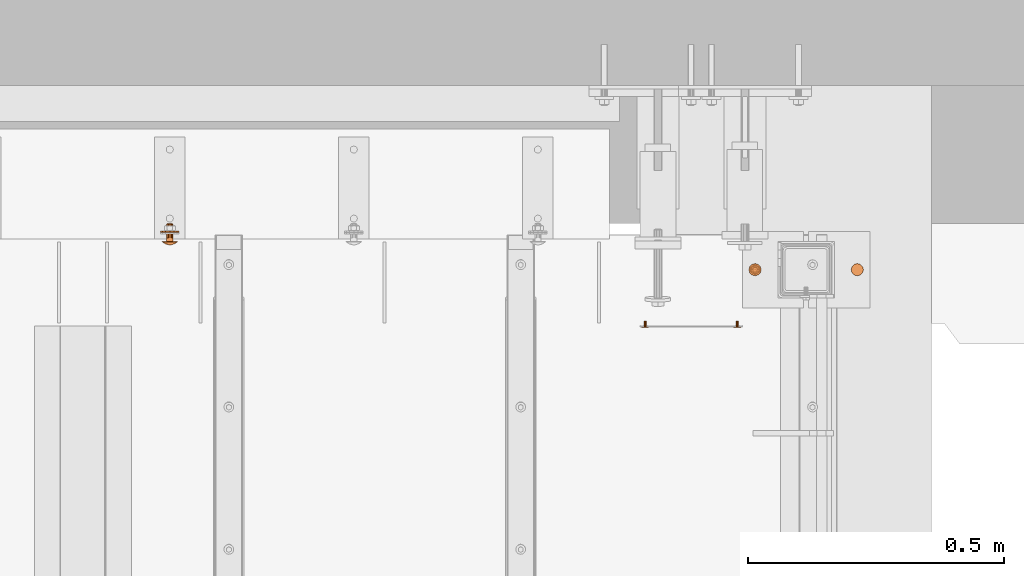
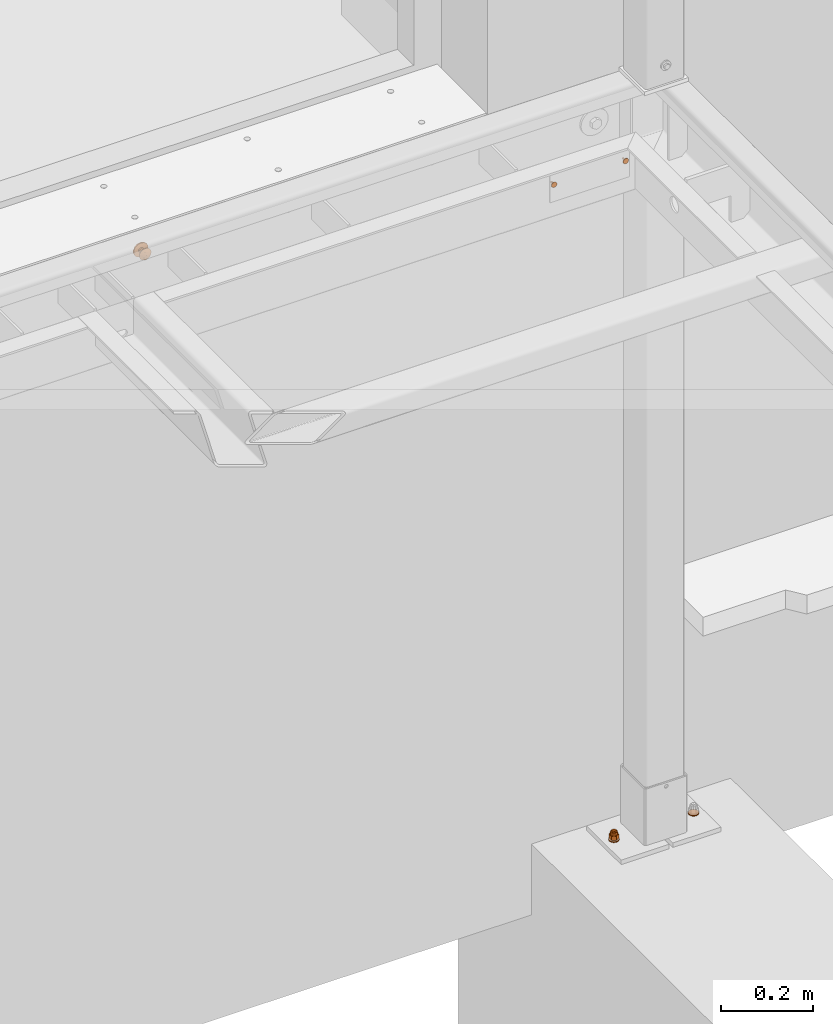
# One storey, part 111 of 116: 7 proxies.
"""IFC2X3 building model written with IfcOpenShell, lengths in millimetres."""

from ifc_helpers import new_model, entity, si_unit, converted_unit, origin_with_axes, place, context, project, spatial, faceted_brep, material, element, save


model = new_model("IFC2X3")

# Units and contexts
model_context = context("Model", 3, precision=1e-09, world=origin_with_axes())
ifc_project = project(units=[si_unit("LENGTHUNIT", "METRE", prefix="MILLI"), si_unit("AREAUNIT", "SQUARE_METRE"), si_unit("VOLUMEUNIT", "CUBIC_METRE"), converted_unit("PLANEANGLEUNIT", "DEGREE", entity("IfcPlaneAngleMeasure", 0.01745329), si_unit("PLANEANGLEUNIT", "RADIAN"), dimensions=[0, 0, 0, 0, 0, 0, 0])], contexts=[model_context])

# Site, building, storey
site_placement = place(None, origin_with_axes())
site = spatial("IfcSite", under=ifc_project, at=site_placement, Name="Site", CompositionType="ELEMENT")
building_placement = place(site_placement, origin_with_axes())
building = spatial("IfcBuilding", under=site, at=building_placement, Name="Struktur 1", CompositionType="ELEMENT")
storey_placement = place(building_placement, origin_with_axes())
storey = spatial("IfcBuildingStorey", under=building, at=storey_placement, Name="Default Storey", CompositionType="ELEMENT", Elevation=0.0)

# Proxies
ifc_material = material(Name="Kein")
proxy_1_placement = place(None, origin_with_axes())
element("IfcBuildingElementProxy", 1, at=proxy_1_placement, inside=storey, material=ifc_material, ObjectType="-", context=model_context, shape_type="Brep", body=[
    faceted_brep([(58256.656829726, 11956.358883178, -1997.0), (58256.656829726, 11956.358883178, -1994.5), (58255.049134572, 11962.358883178, -1994.5), (58255.049134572, 11962.358883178, -1997.0), (58261.419969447, 11959.108883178, -1997.0), (58263.799134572, 11956.729718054, -1997.0), (58267.049134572, 11955.858883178, -1997.0), (58270.299134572, 11956.729718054, -1997.0), (58272.678299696, 11959.108883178, -1997.0), (58273.549134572, 11962.358883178, -1997.0), (58272.678299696, 11965.608883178, -1997.0), (58270.299134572, 11967.988048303, -1997.0), (58267.049134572, 11968.858883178, -1997.0), (58263.799134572, 11967.988048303, -1997.0), (58261.419969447, 11965.608883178, -1997.0), (58260.549134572, 11962.358883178, -1997.0), (58260.549134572, 11962.358883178, -1994.5), (58261.419969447, 11959.108883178, -1994.5), (58261.049134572, 11951.966578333, -1994.5), (58267.049134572, 11950.358883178, -1994.5), (58273.049134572, 11951.966578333, -1994.5), (58277.441439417, 11956.358883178, -1994.5), (58279.049134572, 11962.358883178, -1994.5), (58277.441439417, 11968.358883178, -1994.5), (58273.049134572, 11972.751188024, -1994.5), (58267.049134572, 11974.358883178, -1994.5), (58261.049134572, 11972.751188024, -1994.5), (58256.656829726, 11968.358883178, -1994.5), (58261.049134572, 11951.966578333, -1997.0), (58261.419969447, 11965.608883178, -1994.5), (58256.656829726, 11968.358883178, -1997.0), (58263.799134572, 11956.729718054, -1994.5), (58267.049134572, 11950.358883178, -1997.0), (58263.799134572, 11967.988048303, -1994.5), (58261.049134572, 11972.751188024, -1997.0), (58267.049134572, 11955.858883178, -1994.5), (58267.049134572, 11968.858883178, -1994.5), (58273.049134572, 11951.966578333, -1997.0), (58270.299134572, 11956.729718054, -1994.5), (58267.049134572, 11974.358883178, -1997.0), (58270.299134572, 11967.988048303, -1994.5), (58277.441439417, 11956.358883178, -1997.0), (58272.678299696, 11959.108883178, -1994.5), (58273.049134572, 11972.751188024, -1997.0), (58272.678299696, 11965.608883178, -1994.5), (58279.049134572, 11962.358883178, -1997.0), (58273.549134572, 11962.358883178, -1994.5), (58277.441439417, 11968.358883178, -1997.0)], [[[0, 1, 2, 3]], [[4, 5, 6, 7, 8, 9, 10, 11, 12, 13, 14, 15]], [[15, 16, 17, 4]], [[1, 18, 19, 20, 21, 22, 23, 24, 25, 26, 27, 2]], [[1, 0, 28, 18]], [[16, 15, 14, 29]], [[3, 2, 27, 30]], [[4, 17, 31, 5]], [[18, 28, 32, 19]], [[29, 14, 13, 33]], [[30, 27, 26, 34]], [[5, 31, 35, 6]], [[33, 13, 12, 36]], [[19, 32, 37, 20]], [[6, 35, 38, 7]], [[34, 26, 25, 39]], [[36, 12, 11, 40]], [[20, 37, 41, 21]], [[7, 38, 42, 8]], [[39, 25, 24, 43]], [[40, 11, 10, 44]], [[21, 41, 45, 22]], [[8, 42, 46, 9]], [[43, 24, 23, 47]], [[44, 10, 9, 46]], [[22, 45, 47, 23]]]),
])
proxy_2_placement = place(None, origin_with_axes())
element("IfcBuildingElementProxy", 2, at=proxy_2_placement, inside=storey, material=ifc_material, ObjectType="-", context=model_context, shape_type="Brep", body=[
    faceted_brep([(58056.656829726, 11956.358883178, -1997.0), (58056.656829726, 11956.358883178, -1994.5), (58055.049134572, 11962.358883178, -1994.5), (58055.049134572, 11962.358883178, -1997.0), (58061.419969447, 11959.108883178, -1997.0), (58063.799134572, 11956.729718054, -1997.0), (58067.049134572, 11955.858883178, -1997.0), (58070.299134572, 11956.729718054, -1997.0), (58072.678299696, 11959.108883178, -1997.0), (58073.549134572, 11962.358883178, -1997.0), (58072.678299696, 11965.608883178, -1997.0), (58070.299134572, 11967.988048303, -1997.0), (58067.049134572, 11968.858883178, -1997.0), (58063.799134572, 11967.988048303, -1997.0), (58061.419969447, 11965.608883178, -1997.0), (58060.549134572, 11962.358883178, -1997.0), (58060.549134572, 11962.358883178, -1994.5), (58061.419969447, 11959.108883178, -1994.5), (58061.049134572, 11951.966578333, -1994.5), (58067.049134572, 11950.358883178, -1994.5), (58073.049134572, 11951.966578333, -1994.5), (58077.441439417, 11956.358883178, -1994.5), (58079.049134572, 11962.358883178, -1994.5), (58077.441439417, 11968.358883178, -1994.5), (58073.049134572, 11972.751188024, -1994.5), (58067.049134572, 11974.358883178, -1994.5), (58061.049134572, 11972.751188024, -1994.5), (58056.656829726, 11968.358883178, -1994.5), (58061.049134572, 11951.966578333, -1997.0), (58061.419969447, 11965.608883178, -1994.5), (58056.656829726, 11968.358883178, -1997.0), (58063.799134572, 11956.729718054, -1994.5), (58067.049134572, 11950.358883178, -1997.0), (58063.799134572, 11967.988048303, -1994.5), (58061.049134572, 11972.751188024, -1997.0), (58067.049134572, 11955.858883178, -1994.5), (58067.049134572, 11968.858883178, -1994.5), (58073.049134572, 11951.966578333, -1997.0), (58070.299134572, 11956.729718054, -1994.5), (58067.049134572, 11974.358883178, -1997.0), (58070.299134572, 11967.988048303, -1994.5), (58077.441439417, 11956.358883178, -1997.0), (58072.678299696, 11959.108883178, -1994.5), (58073.049134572, 11972.751188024, -1997.0), (58072.678299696, 11965.608883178, -1994.5), (58079.049134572, 11962.358883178, -1997.0), (58073.549134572, 11962.358883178, -1994.5), (58077.441439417, 11968.358883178, -1997.0)], [[[0, 1, 2, 3]], [[4, 5, 6, 7, 8, 9, 10, 11, 12, 13, 14, 15]], [[15, 16, 17, 4]], [[1, 18, 19, 20, 21, 22, 23, 24, 25, 26, 27, 2]], [[1, 0, 28, 18]], [[16, 15, 14, 29]], [[3, 2, 27, 30]], [[4, 17, 31, 5]], [[18, 28, 32, 19]], [[29, 14, 13, 33]], [[30, 27, 26, 34]], [[5, 31, 35, 6]], [[33, 13, 12, 36]], [[19, 32, 37, 20]], [[6, 35, 38, 7]], [[34, 26, 25, 39]], [[36, 12, 11, 40]], [[20, 37, 41, 21]], [[7, 38, 42, 8]], [[39, 25, 24, 43]], [[40, 11, 10, 44]], [[21, 41, 45, 22]], [[8, 42, 46, 9]], [[43, 24, 23, 47]], [[44, 10, 9, 46]], [[22, 45, 47, 23]]]),
])
proxy_3_placement = place(None, origin_with_axes())
element("IfcBuildingElementProxy", 3, at=proxy_3_placement, inside=storey, material=ifc_material, ObjectType="-", context=model_context, shape_type="Brep", body=[
    faceted_brep([(58073.049134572, 11962.358883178, -1982.0), (58073.049134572, 11962.358883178, -1992.0), (58072.245286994, 11959.358883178, -1992.0), (58072.245286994, 11959.358883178, -1982.0), (58070.049134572, 11957.162730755, -1992.0), (58070.049134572, 11957.162730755, -1982.0), (58072.245286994, 11965.358883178, -1982.0), (58072.245286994, 11965.358883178, -1992.0), (58076.529003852, 11967.832088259, -1992.0), (58076.529003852, 11956.885678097, -1992.0), (58067.049134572, 11951.412473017, -1992.0), (58057.569265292, 11956.885678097, -1992.0), (58057.569265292, 11967.832088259, -1992.0), (58067.049134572, 11973.30529334, -1992.0), (58070.049134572, 11967.555035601, -1992.0), (58067.049134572, 11968.358883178, -1992.0), (58064.049134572, 11967.555035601, -1992.0), (58061.852982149, 11965.358883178, -1992.0), (58061.049134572, 11962.358883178, -1992.0), (58061.852982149, 11959.358883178, -1992.0), (58064.049134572, 11957.162730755, -1992.0), (58067.049134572, 11956.358883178, -1992.0), (58076.529003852, 11967.832088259, -1982.0), (58067.049134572, 11973.30529334, -1982.0), (58057.569265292, 11967.832088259, -1982.0), (58057.569265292, 11956.885678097, -1982.0), (58067.049134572, 11951.412473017, -1982.0), (58076.529003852, 11956.885678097, -1982.0), (58070.049134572, 11967.555035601, -1982.0), (58067.049134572, 11956.358883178, -1982.0), (58067.049134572, 11968.358883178, -1982.0), (58064.049134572, 11957.162730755, -1982.0), (58064.049134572, 11967.555035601, -1982.0), (58061.852982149, 11959.358883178, -1982.0), (58061.852982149, 11965.358883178, -1982.0), (58061.049134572, 11962.358883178, -1982.0)], [[[0, 1, 2, 3]], [[3, 2, 4, 5]], [[1, 0, 6, 7]], [[8, 9, 10, 11, 12, 13], [7, 14, 15, 16, 17, 18, 19, 20, 21, 4, 2, 1]], [[22, 23, 24, 25, 26, 27]], [[7, 6, 28, 14]], [[22, 27, 9, 8]], [[5, 4, 21, 29]], [[10, 9, 27, 26]], [[14, 28, 30, 15]], [[23, 22, 8, 13]], [[29, 21, 20, 31]], [[11, 10, 26, 25]], [[15, 30, 32, 16]], [[24, 23, 13, 12]], [[31, 20, 19, 33]], [[25, 24, 12, 11]], [[16, 32, 34, 17]], [[33, 19, 18, 35]], [[17, 34, 35, 18]]]),
    faceted_brep([(58067.049134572, 11971.358883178, -1979.0), (58067.049134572, 11971.358883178, -1982.0), (58062.549134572, 11970.153111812, -1982.0), (58062.549134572, 11970.153111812, -1979.0), (58071.549134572, 11970.153111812, -1979.0), (58071.549134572, 11970.153111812, -1982.0), (58071.549134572, 11954.564654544, -1979.0), (58074.843363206, 11957.858883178, -1979.0), (58076.049134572, 11962.358883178, -1979.0), (58074.843363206, 11966.858883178, -1979.0), (58059.254905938, 11966.858883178, -1979.0), (58058.049134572, 11962.358883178, -1979.0), (58059.254905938, 11957.858883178, -1979.0), (58062.549134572, 11954.564654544, -1979.0), (58067.049134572, 11953.358883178, -1979.0), (58062.549134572, 11954.564654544, -1982.0), (58059.254905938, 11957.858883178, -1982.0), (58058.049134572, 11962.358883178, -1982.0), (58059.254905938, 11966.858883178, -1982.0), (58074.843363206, 11966.858883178, -1982.0), (58076.049134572, 11962.358883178, -1982.0), (58074.843363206, 11957.858883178, -1982.0), (58071.549134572, 11954.564654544, -1982.0), (58067.049134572, 11953.358883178, -1982.0)], [[[0, 1, 2, 3]], [[1, 0, 4, 5]], [[6, 7, 8, 9, 4, 0, 3, 10, 11, 12, 13, 14]], [[15, 16, 17, 18, 2, 1, 5, 19, 20, 21, 22, 23]], [[3, 2, 18, 10]], [[5, 4, 9, 19]], [[10, 18, 17, 11]], [[19, 9, 8, 20]], [[22, 6, 14, 23]], [[7, 21, 20, 8]], [[6, 22, 21, 7]], [[11, 17, 16, 12]], [[23, 14, 13, 15]], [[12, 16, 15, 13]]]),
    faceted_brep([(58073.799134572, 11966.255997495, -1974.5), (58074.843363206, 11966.858883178, -1979.0), (58071.549134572, 11970.153111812, -1979.0), (58070.946248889, 11969.108883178, -1974.5), (58062.549134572, 11954.564654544, -1979.0), (58059.254905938, 11957.858883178, -1979.0), (58058.049134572, 11962.358883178, -1979.0), (58059.254905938, 11966.858883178, -1979.0), (58062.549134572, 11970.153111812, -1979.0), (58067.049134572, 11971.358883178, -1979.0), (58076.049134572, 11962.358883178, -1979.0), (58074.843363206, 11957.858883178, -1979.0), (58071.549134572, 11954.564654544, -1979.0), (58067.049134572, 11953.358883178, -1979.0), (58067.049134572, 11970.153111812, -1974.5), (58071.549134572, 11962.358883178, -1971.205771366), (58074.843363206, 11962.358883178, -1974.5), (58070.946248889, 11964.608883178, -1971.205771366), (58063.152020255, 11969.108883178, -1974.5), (58069.299134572, 11966.255997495, -1971.205771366), (58070.946248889, 11960.108883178, -1971.205771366), (58073.799134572, 11958.461768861, -1974.5), (58067.049134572, 11966.858883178, -1971.205771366), (58067.049134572, 11962.358883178, -1970.0), (58069.299134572, 11958.461768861, -1971.205771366), (58070.946248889, 11955.608883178, -1974.5), (58067.049134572, 11954.564654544, -1974.5), (58060.299134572, 11966.255997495, -1974.5), (58064.799134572, 11966.255997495, -1971.205771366), (58067.049134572, 11957.858883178, -1971.205771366), (58063.152020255, 11955.608883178, -1974.5), (58064.799134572, 11958.461768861, -1971.205771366), (58059.254905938, 11962.358883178, -1974.5), (58063.152020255, 11964.608883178, -1971.205771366), (58060.299134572, 11958.461768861, -1974.5), (58063.152020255, 11960.108883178, -1971.205771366), (58062.549134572, 11962.358883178, -1971.205771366)], [[[0, 1, 2, 3]], [[4, 5, 6, 7, 8, 9, 2, 1, 10, 11, 12, 13]], [[3, 2, 9, 14]], [[15, 16, 0, 17]], [[1, 0, 16, 10]], [[14, 9, 8, 18]], [[17, 0, 3, 19]], [[16, 15, 20, 21]], [[19, 3, 14, 22]], [[17, 23, 15]], [[24, 25, 21, 20]], [[15, 23, 20]], [[12, 25, 26, 13]], [[11, 21, 25, 12]], [[10, 16, 21, 11]], [[18, 8, 7, 27]], [[22, 14, 18, 28]], [[19, 23, 17]], [[29, 26, 25, 24]], [[20, 23, 24]], [[22, 23, 19]], [[13, 26, 30, 4]], [[26, 29, 31, 30]], [[24, 23, 29]], [[27, 7, 6, 32]], [[28, 18, 27, 33]], [[28, 23, 22]], [[29, 23, 31]], [[33, 23, 28]], [[4, 30, 34, 5]], [[30, 31, 35, 34]], [[31, 23, 35]], [[32, 6, 5, 34]], [[33, 27, 32, 36]], [[36, 23, 33]], [[35, 23, 36]], [[34, 35, 36, 32]]]),
])
proxy_4_placement = place(None, origin_with_axes())
element("IfcBuildingElementProxy", 4, at=proxy_4_placement, inside=storey, material=ifc_material, ObjectType="-", context=model_context, shape_type="Brep", body=[
    faceted_brep([(57852.047720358, 11849.358883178, -122.0), (57852.047720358, 11850.358883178, -122.0), (57855.547720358, 11850.358883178, -121.062177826), (57855.547720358, 11849.358883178, -121.062177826), (57848.547720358, 11849.358883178, -121.062177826), (57848.547720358, 11850.358883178, -121.062177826), (57848.547720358, 11849.358883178, -108.937822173), (57845.985542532, 11849.358883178, -111.5), (57845.047720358, 11849.358883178, -115.0), (57845.985542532, 11849.358883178, -118.5), (57858.109898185, 11849.358883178, -118.5), (57859.047720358, 11849.358883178, -115.0), (57858.109898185, 11849.358883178, -111.5), (57855.547720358, 11849.358883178, -108.937822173), (57852.047720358, 11849.358883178, -108.0), (57855.547720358, 11850.358883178, -108.937822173), (57858.109898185, 11850.358883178, -111.5), (57859.047720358, 11850.358883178, -115.0), (57858.109898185, 11850.358883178, -118.5), (57845.985542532, 11850.358883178, -118.5), (57845.047720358, 11850.358883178, -115.0), (57845.985542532, 11850.358883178, -111.5), (57848.547720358, 11850.358883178, -108.937822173), (57852.047720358, 11850.358883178, -108.0)], [[[0, 1, 2, 3]], [[1, 0, 4, 5]], [[6, 7, 8, 9, 4, 0, 3, 10, 11, 12, 13, 14]], [[15, 16, 17, 18, 2, 1, 5, 19, 20, 21, 22, 23]], [[3, 2, 18, 10]], [[5, 4, 9, 19]], [[17, 11, 10, 18]], [[16, 12, 11, 17]], [[19, 9, 8, 20]], [[13, 15, 23, 14]], [[12, 16, 15, 13]], [[14, 23, 22, 6]], [[20, 8, 7, 21]], [[6, 22, 21, 7]]]),
    faceted_brep([(57852.047720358, 11850.358883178, -117.5), (57852.047720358, 11862.358883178, -117.5), (57853.297720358, 11862.358883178, -117.165063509), (57853.297720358, 11850.358883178, -117.165063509), (57850.797720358, 11850.358883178, -117.165063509), (57850.797720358, 11862.358883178, -117.165063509), (57850.797720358, 11850.358883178, -112.83493649), (57849.882656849, 11850.358883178, -113.75), (57849.547720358, 11850.358883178, -115.0), (57849.882656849, 11850.358883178, -116.25), (57854.212783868, 11850.358883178, -116.25), (57854.547720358, 11850.358883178, -115.0), (57854.212783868, 11850.358883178, -113.75), (57853.297720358, 11850.358883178, -112.83493649), (57852.047720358, 11850.358883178, -112.5), (57853.297720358, 11862.358883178, -112.83493649), (57854.212783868, 11862.358883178, -113.75), (57854.547720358, 11862.358883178, -115.0), (57854.212783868, 11862.358883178, -116.25), (57849.882656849, 11862.358883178, -116.25), (57849.547720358, 11862.358883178, -115.0), (57849.882656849, 11862.358883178, -113.75), (57850.797720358, 11862.358883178, -112.83493649), (57852.047720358, 11862.358883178, -112.5)], [[[0, 1, 2, 3]], [[1, 0, 4, 5]], [[6, 7, 8, 9, 4, 0, 3, 10, 11, 12, 13, 14]], [[15, 16, 17, 18, 2, 1, 5, 19, 20, 21, 22, 23]], [[3, 2, 18, 10]], [[5, 4, 9, 19]], [[17, 11, 10, 18]], [[16, 12, 11, 17]], [[19, 9, 8, 20]], [[13, 15, 23, 14]], [[12, 16, 15, 13]], [[14, 23, 22, 6]], [[20, 8, 7, 21]], [[6, 22, 21, 7]]]),
])
proxy_5_placement = place(None, origin_with_axes())
element("IfcBuildingElementProxy", 5, at=proxy_5_placement, inside=storey, material=ifc_material, ObjectType="-", context=model_context, shape_type="Brep", body=[
    faceted_brep([(58032.047720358, 11849.358883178, -122.0), (58032.047720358, 11850.358883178, -122.0), (58035.547720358, 11850.358883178, -121.062177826), (58035.547720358, 11849.358883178, -121.062177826), (58028.547720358, 11849.358883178, -121.062177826), (58028.547720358, 11850.358883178, -121.062177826), (58028.547720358, 11849.358883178, -108.937822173), (58025.985542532, 11849.358883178, -111.5), (58025.047720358, 11849.358883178, -115.0), (58025.985542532, 11849.358883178, -118.5), (58038.109898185, 11849.358883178, -118.5), (58039.047720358, 11849.358883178, -115.0), (58038.109898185, 11849.358883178, -111.5), (58035.547720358, 11849.358883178, -108.937822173), (58032.047720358, 11849.358883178, -108.0), (58035.547720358, 11850.358883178, -108.937822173), (58038.109898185, 11850.358883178, -111.5), (58039.047720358, 11850.358883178, -115.0), (58038.109898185, 11850.358883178, -118.5), (58025.985542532, 11850.358883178, -118.5), (58025.047720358, 11850.358883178, -115.0), (58025.985542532, 11850.358883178, -111.5), (58028.547720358, 11850.358883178, -108.937822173), (58032.047720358, 11850.358883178, -108.0)], [[[0, 1, 2, 3]], [[1, 0, 4, 5]], [[6, 7, 8, 9, 4, 0, 3, 10, 11, 12, 13, 14]], [[15, 16, 17, 18, 2, 1, 5, 19, 20, 21, 22, 23]], [[3, 2, 18, 10]], [[5, 4, 9, 19]], [[17, 11, 10, 18]], [[16, 12, 11, 17]], [[19, 9, 8, 20]], [[13, 15, 23, 14]], [[12, 16, 15, 13]], [[14, 23, 22, 6]], [[20, 8, 7, 21]], [[6, 22, 21, 7]]]),
    faceted_brep([(58032.047720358, 11850.358883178, -117.5), (58032.047720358, 11862.358883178, -117.5), (58033.297720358, 11862.358883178, -117.165063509), (58033.297720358, 11850.358883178, -117.165063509), (58030.797720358, 11850.358883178, -117.165063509), (58030.797720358, 11862.358883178, -117.165063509), (58030.797720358, 11850.358883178, -112.83493649), (58029.882656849, 11850.358883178, -113.75), (58029.547720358, 11850.358883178, -115.0), (58029.882656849, 11850.358883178, -116.25), (58034.212783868, 11850.358883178, -116.25), (58034.547720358, 11850.358883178, -115.0), (58034.212783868, 11850.358883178, -113.75), (58033.297720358, 11850.358883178, -112.83493649), (58032.047720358, 11850.358883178, -112.5), (58033.297720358, 11862.358883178, -112.83493649), (58034.212783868, 11862.358883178, -113.75), (58034.547720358, 11862.358883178, -115.0), (58034.212783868, 11862.358883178, -116.25), (58029.882656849, 11862.358883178, -116.25), (58029.547720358, 11862.358883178, -115.0), (58029.882656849, 11862.358883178, -113.75), (58030.797720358, 11862.358883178, -112.83493649), (58032.047720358, 11862.358883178, -112.5)], [[[0, 1, 2, 3]], [[1, 0, 4, 5]], [[6, 7, 8, 9, 4, 0, 3, 10, 11, 12, 13, 14]], [[15, 16, 17, 18, 2, 1, 5, 19, 20, 21, 22, 23]], [[3, 2, 18, 10]], [[5, 4, 9, 19]], [[17, 11, 10, 18]], [[16, 12, 11, 17]], [[19, 9, 8, 20]], [[13, 15, 23, 14]], [[12, 16, 15, 13]], [[14, 23, 22, 6]], [[20, 8, 7, 21]], [[6, 22, 21, 7]]]),
])
proxy_6_placement = place(None, origin_with_axes())
element("IfcBuildingElementProxy", 6, at=proxy_6_placement, inside=storey, material=ifc_material, ObjectType="-", context=model_context, shape_type="Brep", body=[
    faceted_brep([(56926.380761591, 12052.358883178, -72.5), (56927.246786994, 12051.358883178, -72.0), (56928.050634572, 12051.358883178, -75.0), (56927.050634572, 12052.358883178, -75.0), (56924.550634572, 12052.358883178, -70.669872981), (56925.050634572, 12051.358883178, -69.803847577), (56917.720507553, 12052.358883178, -72.5), (56919.550634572, 12052.358883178, -70.669872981), (56922.050634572, 12052.358883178, -70.0), (56926.380761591, 12052.358883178, -77.5), (56924.550634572, 12052.358883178, -79.330127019), (56922.050634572, 12052.358883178, -80.0), (56919.550634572, 12052.358883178, -79.330127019), (56917.720507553, 12052.358883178, -77.5), (56917.050634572, 12052.358883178, -75.0), (56935.620248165, 12017.011383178, -67.878117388), (56930.756226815, 12017.011383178, -62.387772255), (56927.83032902, 12012.523540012, -69.220305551), (56929.602169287, 12012.523540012, -71.872051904), (56922.050634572, 12051.358883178, -69.0), (56925.050634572, 12024.308883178, -69.803847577), (56927.246786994, 12024.308883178, -72.0), (56937.375634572, 12017.011383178, -75.0), (56935.620248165, 12017.358883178, -67.878117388), (56930.756226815, 12017.358883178, -62.387772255), (56927.246786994, 12051.358883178, -78.0), (56925.050634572, 12051.358883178, -80.196152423), (56928.050634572, 12024.308883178, -75.0), (56930.224356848, 12012.523540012, -75.0), (56925.178582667, 12012.523540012, -67.448465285), (56922.050634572, 12010.408883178, -75.0), (56923.897859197, 12017.011383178, -59.786736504), (56919.050634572, 12051.358883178, -69.803847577), (56922.050634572, 12024.308883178, -69.0), (56923.897859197, 12017.358883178, -59.786736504), (56916.854482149, 12051.358883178, -72.0), (56916.050634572, 12051.358883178, -75.0), (56937.375634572, 12017.358883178, -75.0), (56916.854482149, 12051.358883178, -78.0), (56919.050634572, 12051.358883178, -80.196152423), (56922.050634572, 12051.358883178, -81.0), (56928.050634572, 12024.308883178, -69.0), (56929.602169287, 12012.523540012, -78.127948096), (56922.050634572, 12012.523540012, -66.826277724), (56916.616314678, 12017.011383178, -60.670876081), (56919.050634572, 12024.308883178, -69.803847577), (56910.579707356, 12017.358883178, -64.837645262), (56916.616314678, 12017.358883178, -60.670876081), (56935.620248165, 12017.358883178, -82.121882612), (56930.756226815, 12017.358883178, -87.612227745), (56923.897859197, 12017.358883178, -90.213263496), (56916.616314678, 12017.358883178, -89.329123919), (56910.579707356, 12017.358883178, -85.162354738), (56907.17095122, 12017.358883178, -78.667512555), (56907.17095122, 12017.358883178, -71.332487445), (56916.050634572, 12017.358883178, -69.0), (56916.050634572, 12017.358883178, -81.0), (56928.050634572, 12017.358883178, -81.0), (56928.050634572, 12017.358883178, -69.0), (56935.620248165, 12017.011383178, -82.121882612), (56927.246786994, 12024.308883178, -78.0), (56925.050634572, 12024.308883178, -80.196152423), (56927.83032902, 12012.523540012, -80.779694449), (56918.922686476, 12012.523540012, -67.448465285), (56916.854482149, 12024.308883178, -72.0), (56916.050634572, 12024.308883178, -69.0), (56916.050634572, 12024.308883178, -75.0), (56916.854482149, 12024.308883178, -78.0), (56919.050634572, 12024.308883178, -80.196152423), (56922.050634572, 12024.308883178, -81.0), (56928.050634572, 12024.308883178, -81.0), (56930.756226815, 12017.011383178, -87.612227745), (56916.270940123, 12012.523540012, -69.220305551), (56910.579707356, 12017.011383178, -64.837645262), (56916.050634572, 12024.308883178, -81.0), (56925.178582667, 12012.523540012, -82.551534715), (56914.499099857, 12012.523540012, -71.872051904), (56923.897859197, 12017.011383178, -90.213263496), (56922.050634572, 12012.523540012, -83.173722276), (56907.17095122, 12017.011383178, -71.332487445), (56918.922686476, 12012.523540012, -82.551534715), (56913.876912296, 12012.523540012, -75.0), (56916.616314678, 12017.011383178, -89.329123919), (56916.270940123, 12012.523540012, -80.779694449), (56907.17095122, 12017.011383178, -78.667512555), (56914.499099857, 12012.523540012, -78.127948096), (56910.579707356, 12017.011383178, -85.162354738)], [[[0, 1, 2, 3]], [[1, 0, 4, 5]], [[6, 7, 8, 4, 0, 3, 9, 10, 11, 12, 13, 14]], [[15, 16, 17]], [[15, 17, 18]], [[8, 19, 5, 4]], [[5, 20, 21, 1]], [[18, 22, 15]], [[16, 15, 23, 24]], [[9, 25, 26, 10]], [[3, 2, 25, 9]], [[1, 21, 27, 2]], [[18, 28, 22]], [[16, 29, 17]], [[30, 18, 17]], [[16, 31, 29]], [[7, 32, 19, 8]], [[20, 5, 19, 33]], [[24, 34, 31, 16]], [[6, 35, 32, 7]], [[14, 36, 35, 6]], [[15, 22, 37, 23]], [[13, 38, 36, 14]], [[12, 39, 38, 13]], [[11, 40, 39, 12]], [[10, 26, 40, 11]], [[33, 41, 27, 21, 20]], [[28, 42, 22]], [[30, 28, 18]], [[31, 43, 29]], [[30, 17, 29]], [[31, 44, 43]], [[32, 45, 33, 19]], [[46, 47, 34, 24, 23, 37, 48, 49, 50, 51, 52, 53, 54], [55, 56, 57, 58]], [[59, 22, 42]], [[25, 60, 61, 26]], [[2, 27, 60, 25]], [[59, 42, 62]], [[28, 30, 42]], [[30, 29, 43]], [[44, 63, 43]], [[44, 31, 34, 47]], [[45, 32, 35, 64]], [[41, 33, 65, 55, 58]], [[36, 66, 64, 35]], [[38, 67, 66, 36]], [[22, 59, 48, 37]], [[67, 38, 39, 68]], [[40, 69, 68, 39]], [[26, 61, 69, 40]], [[58, 57, 70, 27, 41]], [[71, 59, 62]], [[30, 62, 42]], [[30, 43, 63]], [[44, 72, 63]], [[73, 72, 44]], [[47, 46, 73, 44]], [[66, 65, 33, 45, 64]], [[69, 74, 66, 67, 68]], [[27, 70, 69, 61, 60]], [[59, 71, 49, 48]], [[71, 62, 75]], [[30, 75, 62]], [[72, 30, 63]], [[73, 76, 72]], [[77, 71, 75]], [[30, 78, 75]], [[46, 54, 79, 73]], [[76, 30, 72]], [[79, 76, 73]], [[65, 66, 74, 56, 55]], [[74, 69, 70, 57, 56]], [[71, 77, 50, 49]], [[77, 75, 78]], [[30, 80, 78]], [[81, 30, 76]], [[79, 81, 76]], [[82, 77, 78]], [[80, 30, 83]], [[82, 78, 80]], [[54, 53, 84, 79]], [[85, 30, 81]], [[84, 81, 79]], [[83, 30, 85]], [[77, 82, 51, 50]], [[82, 80, 83]], [[84, 85, 81]], [[86, 83, 85]], [[82, 83, 86]], [[53, 52, 86, 84]], [[86, 85, 84]], [[82, 86, 52, 51]]]),
])
proxy_7_placement = place(None, origin_with_axes())
element("IfcBuildingElementProxy", 7, at=proxy_7_placement, inside=storey, material=ifc_material, ObjectType="-", context=model_context, shape_type="Brep", body=[
    faceted_brep([(56936.514516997, 12035.358883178, -63.465438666), (56936.514516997, 12038.358883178, -63.465438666), (56930.077483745, 12038.358883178, -58.332075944), (56930.077483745, 12035.358883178, -58.332075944), (56940.086800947, 12035.358883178, -79.116637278), (56940.086800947, 12035.358883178, -70.883362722), (56922.050634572, 12035.358883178, -56.5), (56914.023785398, 12035.358883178, -58.332075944), (56907.586752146, 12035.358883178, -63.465438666), (56904.014468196, 12035.358883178, -70.883362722), (56904.014468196, 12035.358883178, -79.116637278), (56907.586752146, 12035.358883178, -86.534561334), (56914.023785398, 12035.358883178, -91.667924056), (56922.050634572, 12035.358883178, -93.5), (56930.077483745, 12035.358883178, -91.667924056), (56936.514516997, 12035.358883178, -86.534561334), (56927.679799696, 12035.358883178, -71.75), (56928.550634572, 12035.358883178, -75.0), (56927.679799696, 12035.358883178, -78.25), (56925.300634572, 12035.358883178, -80.629165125), (56922.050634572, 12035.358883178, -81.5), (56918.800634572, 12035.358883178, -80.629165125), (56916.421469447, 12035.358883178, -78.25), (56915.550634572, 12035.358883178, -75.0), (56916.421469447, 12035.358883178, -71.75), (56918.800634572, 12035.358883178, -69.370834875), (56922.050634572, 12035.358883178, -68.5), (56925.300634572, 12035.358883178, -69.370834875), (56914.023785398, 12038.358883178, -58.332075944), (56922.050634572, 12038.358883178, -56.5), (56940.086800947, 12038.358883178, -70.883362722), (56940.086800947, 12038.358883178, -79.116637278), (56936.514516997, 12038.358883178, -86.534561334), (56930.077483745, 12038.358883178, -91.667924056), (56922.050634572, 12038.358883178, -93.5), (56914.023785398, 12038.358883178, -91.667924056), (56907.586752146, 12038.358883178, -86.534561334), (56904.014468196, 12038.358883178, -79.116637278), (56904.014468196, 12038.358883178, -70.883362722), (56907.586752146, 12038.358883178, -63.465438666), (56922.050634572, 12038.358883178, -68.5), (56918.800634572, 12038.358883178, -69.370834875), (56916.421469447, 12038.358883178, -71.75), (56915.550634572, 12038.358883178, -75.0), (56916.421469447, 12038.358883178, -78.25), (56918.800634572, 12038.358883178, -80.629165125), (56922.050634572, 12038.358883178, -81.5), (56925.300634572, 12038.358883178, -80.629165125), (56927.679799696, 12038.358883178, -78.25), (56928.550634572, 12038.358883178, -75.0), (56927.679799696, 12038.358883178, -71.75), (56925.300634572, 12038.358883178, -69.370834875)], [[[0, 1, 2, 3]], [[4, 5, 0, 3, 6, 7, 8, 9, 10, 11, 12, 13, 14, 15], [16, 17, 18, 19, 20, 21, 22, 23, 24, 25, 26, 27]], [[28, 29, 2, 1, 30, 31, 32, 33, 34, 35, 36, 37, 38, 39], [40, 41, 42, 43, 44, 45, 46, 47, 48, 49, 50, 51]], [[1, 0, 5, 30]], [[27, 51, 50, 16]], [[51, 27, 26, 40]], [[3, 2, 29, 6]], [[30, 5, 4, 31]], [[16, 50, 49, 17]], [[40, 26, 25, 41]], [[6, 29, 28, 7]], [[31, 4, 15, 32]], [[17, 49, 48, 18]], [[41, 25, 24, 42]], [[7, 28, 39, 8]], [[32, 15, 14, 33]], [[18, 48, 47, 19]], [[42, 24, 23, 43]], [[8, 39, 38, 9]], [[33, 14, 13, 34]], [[19, 47, 46, 20]], [[22, 44, 43, 23]], [[9, 38, 37, 10]], [[45, 21, 20, 46]], [[44, 22, 21, 45]], [[34, 13, 12, 35]], [[10, 37, 36, 11]], [[35, 12, 11, 36]]]),
])

save(model, "model.ifc")
